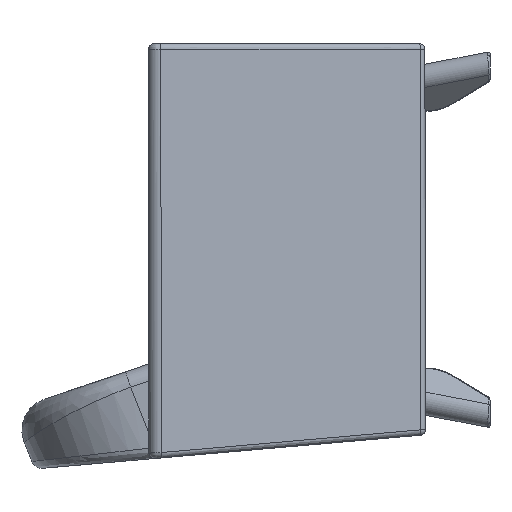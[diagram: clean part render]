
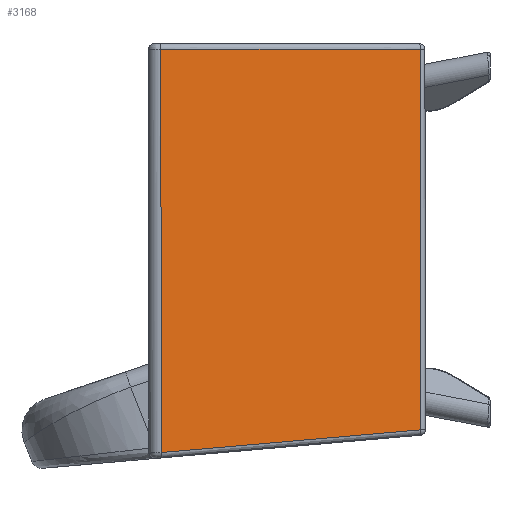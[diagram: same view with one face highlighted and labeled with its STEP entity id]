
A CAD part, left-side view. The second image highlights one B-rep face of the part: STEP entity #3168.
In plain terms, the highlighted free-form (B-spline) face has degree [3, 1] with [17, 2] control points.
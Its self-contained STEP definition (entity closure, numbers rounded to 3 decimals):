
#66=B_SPLINE_SURFACE_WITH_KNOTS('',3,1,((#7184,#7185),(#7186,#7187),(#7188,
#7189),(#7190,#7191),(#7192,#7193),(#7194,#7195),(#7196,#7197),(#7198,#7199),
(#7200,#7201),(#7202,#7203),(#7204,#7205),(#7206,#7207),(#7208,#7209),(#7210,
#7211),(#7212,#7213),(#7214,#7215),(#7216,#7217)),.UNSPECIFIED.,.F.,.F.,
 .F.,(4,1,1,1,2,1,1,1,2,1,1,1,4),(2,2),(0.,0.004,0.008,
0.013,0.017,0.251,0.486,
0.721,0.955,0.966,0.978,
0.989,1.),(0.,1.),.UNSPECIFIED.);
#85=B_SPLINE_CURVE_WITH_KNOTS('',3,(#5683,#5684,#5685,#5686,#5687,#5688,
#5689),.UNSPECIFIED.,.F.,.F.,(4,3,4),(0.,0.893,1.),
 .UNSPECIFIED.);
#87=B_SPLINE_CURVE_WITH_KNOTS('',3,(#5742,#5743,#5744,#5745,#5746,#5747,
#5748,#5749,#5750,#5751,#5752,#5753,#5754),.UNSPECIFIED.,.F.,.F.,(4,3,3,
3,4),(0.,0.246,0.493,0.639,1.),
 .UNSPECIFIED.);
#323=FACE_OUTER_BOUND('',#540,.T.);
#540=EDGE_LOOP('',(#2248,#2249,#2250,#2251));
#797=LINE('',#7177,#990);
#798=LINE('',#7179,#991);
#990=VECTOR('',#3913,10.);
#991=VECTOR('',#3916,10.);
#1349=VERTEX_POINT('',#5416);
#1353=VERTEX_POINT('',#5670);
#1359=VERTEX_POINT('',#5705);
#1360=VERTEX_POINT('',#5726);
#1665=EDGE_CURVE('',#1353,#1349,#85,.T.);
#1677=EDGE_CURVE('',#1360,#1359,#87,.T.);
#1700=EDGE_CURVE('',#1349,#1360,#797,.T.);
#1701=EDGE_CURVE('',#1359,#1353,#798,.T.);
#2248=ORIENTED_EDGE('',*,*,#1700,.T.);
#2249=ORIENTED_EDGE('',*,*,#1677,.T.);
#2250=ORIENTED_EDGE('',*,*,#1701,.T.);
#2251=ORIENTED_EDGE('',*,*,#1665,.T.);
#3168=ADVANCED_FACE('',(#323),#66,.T.);
#3913=DIRECTION('',(0.,-0.001,-1.));
#3916=DIRECTION('',(0.,0.001,1.));
#5416=CARTESIAN_POINT('',(-418.096,652.061,334.165));
#5670=CARTESIAN_POINT('',(-347.242,173.524,334.165));
#5683=CARTESIAN_POINT('Ctrl Pts',(-347.242,173.524,334.165));
#5684=CARTESIAN_POINT('Ctrl Pts',(-367.711,311.771,334.165));
#5685=CARTESIAN_POINT('Ctrl Pts',(-388.73,453.725,334.165));
#5686=CARTESIAN_POINT('Ctrl Pts',(-410.305,599.438,334.165));
#5687=CARTESIAN_POINT('Ctrl Pts',(-412.894,616.925,334.165));
#5688=CARTESIAN_POINT('Ctrl Pts',(-415.491,634.466,334.165));
#5689=CARTESIAN_POINT('Ctrl Pts',(-418.096,652.061,334.165));
#5705=CARTESIAN_POINT('',(-347.251,172.75,-367.839));
#5726=CARTESIAN_POINT('',(-418.086,651.177,-409.696));
#5742=CARTESIAN_POINT('Ctrl Pts',(-418.086,651.177,-409.696));
#5743=CARTESIAN_POINT('Ctrl Pts',(-412.098,610.743,-406.159));
#5744=CARTESIAN_POINT('Ctrl Pts',(-406.153,570.59,-402.646));
#5745=CARTESIAN_POINT('Ctrl Pts',(-400.25,530.721,-399.158));
#5746=CARTESIAN_POINT('Ctrl Pts',(-394.348,490.851,-395.67));
#5747=CARTESIAN_POINT('Ctrl Pts',(-388.487,451.265,-392.206));
#5748=CARTESIAN_POINT('Ctrl Pts',(-382.668,411.964,-388.768));
#5749=CARTESIAN_POINT('Ctrl Pts',(-379.2,388.538,-386.718));
#5750=CARTESIAN_POINT('Ctrl Pts',(-375.746,365.213,-384.678));
#5751=CARTESIAN_POINT('Ctrl Pts',(-372.308,341.989,-382.646));
#5752=CARTESIAN_POINT('Ctrl Pts',(-363.865,284.964,-377.657));
#5753=CARTESIAN_POINT('Ctrl Pts',(-355.513,228.55,-372.721));
#5754=CARTESIAN_POINT('Ctrl Pts',(-347.251,172.75,-367.839));
#7177=CARTESIAN_POINT('',(-418.096,652.061,334.165));
#7179=CARTESIAN_POINT('',(-347.251,172.75,-367.839));
#7184=CARTESIAN_POINT('Ctrl Pts',(-345.978,165.,344.163));
#7185=CARTESIAN_POINT('Ctrl Pts',(-345.988,164.204,-377.004));
#7186=CARTESIAN_POINT('Ctrl Pts',(-346.083,165.71,344.163));
#7187=CARTESIAN_POINT('Ctrl Pts',(-346.092,164.911,-377.065));
#7188=CARTESIAN_POINT('Ctrl Pts',(-346.294,167.133,344.163));
#7189=CARTESIAN_POINT('Ctrl Pts',(-346.301,166.323,-377.189));
#7190=CARTESIAN_POINT('Ctrl Pts',(-346.61,169.27,344.163));
#7191=CARTESIAN_POINT('Ctrl Pts',(-346.614,168.437,-377.374));
#7192=CARTESIAN_POINT('Ctrl Pts',(-346.927,171.406,344.163));
#7193=CARTESIAN_POINT('Ctrl Pts',(-346.928,170.552,-377.559));
#7194=CARTESIAN_POINT('Ctrl Pts',(-347.137,172.827,344.163));
#7195=CARTESIAN_POINT('Ctrl Pts',(-347.137,171.966,-377.683));
#7196=CARTESIAN_POINT('Ctrl Pts',(-353.147,213.416,344.163));
#7197=CARTESIAN_POINT('Ctrl Pts',(-353.146,212.553,-381.233));
#7198=CARTESIAN_POINT('Ctrl Pts',(-364.956,293.173,344.163));
#7199=CARTESIAN_POINT('Ctrl Pts',(-364.955,292.315,-388.212));
#7200=CARTESIAN_POINT('Ctrl Pts',(-382.669,412.803,344.163));
#7201=CARTESIAN_POINT('Ctrl Pts',(-382.67,411.963,-398.68));
#7202=CARTESIAN_POINT('Ctrl Pts',(-400.382,532.433,344.163));
#7203=CARTESIAN_POINT('Ctrl Pts',(-400.384,531.61,-409.147));
#7204=CARTESIAN_POINT('Ctrl Pts',(-412.192,612.192,344.163));
#7205=CARTESIAN_POINT('Ctrl Pts',(-412.193,611.371,-416.125));
#7206=CARTESIAN_POINT('Ctrl Pts',(-418.379,653.981,344.163));
#7207=CARTESIAN_POINT('Ctrl Pts',(-418.381,653.155,-419.781));
#7208=CARTESIAN_POINT('Ctrl Pts',(-418.944,657.798,344.163));
#7209=CARTESIAN_POINT('Ctrl Pts',(-418.948,656.967,-420.115));
#7210=CARTESIAN_POINT('Ctrl Pts',(-419.793,663.531,344.163));
#7211=CARTESIAN_POINT('Ctrl Pts',(-419.797,662.678,-420.614));
#7212=CARTESIAN_POINT('Ctrl Pts',(-420.642,669.266,344.163));
#7213=CARTESIAN_POINT('Ctrl Pts',(-420.646,668.385,-421.114));
#7214=CARTESIAN_POINT('Ctrl Pts',(-421.209,673.091,344.163));
#7215=CARTESIAN_POINT('Ctrl Pts',(-421.212,672.19,-421.447));
#7216=CARTESIAN_POINT('Ctrl Pts',(-421.492,675.002,344.163));
#7217=CARTESIAN_POINT('Ctrl Pts',(-421.495,674.093,-421.613));
